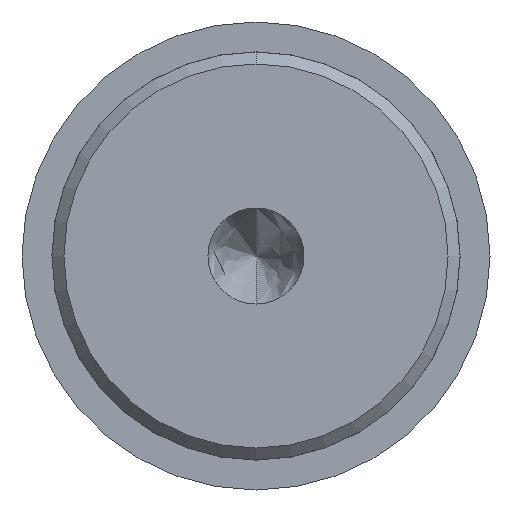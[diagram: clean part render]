
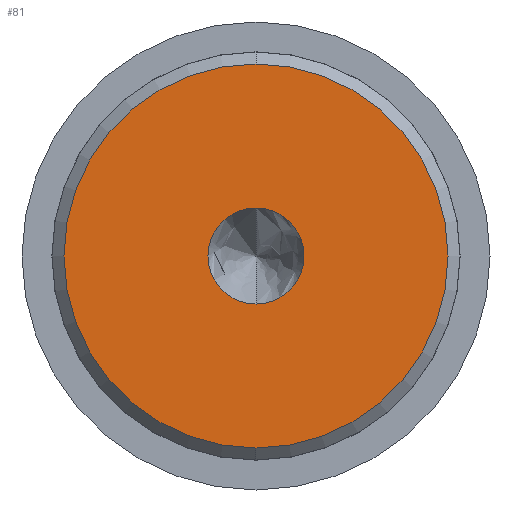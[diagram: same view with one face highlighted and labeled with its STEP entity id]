
A CAD part, left-side view. The second image highlights one B-rep face of the part: STEP entity #81.
In plain terms, the highlighted free-form (B-spline) face has degree [1, 1] with [2, 2] control points.
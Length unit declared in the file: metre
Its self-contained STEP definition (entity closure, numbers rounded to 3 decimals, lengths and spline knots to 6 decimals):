
#81 = ADVANCED_FACE( '', ( #116, #117 ), #118, .T. );
#116 = FACE_BOUND( '', #186, .T. );
#117 = FACE_OUTER_BOUND( '', #187, .T. );
#118 = B_SPLINE_SURFACE_WITH_KNOTS( '', 1, 1, ( ( #188, #189 ), ( #190, #191 ) ), .UNSPECIFIED., .F., .F., .F., ( 2, 2 ), ( 2, 2 ), ( 0., 1. ), ( 0., 1. ), .UNSPECIFIED. );
#186 = EDGE_LOOP( '', ( #345, #346 ) );
#187 = EDGE_LOOP( '', ( #347, #348 ) );
#188 = CARTESIAN_POINT( '', ( -0.064, -0.016192, -0.016192 ) );
#189 = CARTESIAN_POINT( '', ( -0.064, 0.016192, -0.016192 ) );
#190 = CARTESIAN_POINT( '', ( -0.064, -0.016192, 0.016192 ) );
#191 = CARTESIAN_POINT( '', ( -0.064, 0.016192, 0.016192 ) );
#345 = ORIENTED_EDGE( '', *, *, #522, .T. );
#346 = ORIENTED_EDGE( '', *, *, #520, .T. );
#347 = ORIENTED_EDGE( '', *, *, #523, .T. );
#348 = ORIENTED_EDGE( '', *, *, #524, .T. );
#520 = EDGE_CURVE( '', #582, #580, #583, .T. );
#522 = EDGE_CURVE( '', #580, #582, #585, .T. );
#523 = EDGE_CURVE( '', #586, #587, #588, .F. );
#524 = EDGE_CURVE( '', #587, #586, #589, .F. );
#580 = VERTEX_POINT( '', #673 );
#582 = VERTEX_POINT( '', #676 );
#583 = CIRCLE( '', #677, 0.004 );
#585 = CIRCLE( '', #680, 0.004 );
#586 = VERTEX_POINT( '', #681 );
#587 = VERTEX_POINT( '', #682 );
#588 = CIRCLE( '', #683, 0.016 );
#589 = CIRCLE( '', #684, 0.016 );
#673 = CARTESIAN_POINT( '', ( -0.064, 0., -0.004 ) );
#676 = CARTESIAN_POINT( '', ( -0.064, 0., 0.004 ) );
#677 = AXIS2_PLACEMENT_3D( '', #806, #807, #808 );
#680 = AXIS2_PLACEMENT_3D( '', #810, #811, #812 );
#681 = CARTESIAN_POINT( '', ( -0.064, 0., 0.016 ) );
#682 = CARTESIAN_POINT( '', ( -0.064, 0., -0.016 ) );
#683 = AXIS2_PLACEMENT_3D( '', #813, #814, #815 );
#684 = AXIS2_PLACEMENT_3D( '', #816, #817, #818 );
#806 = CARTESIAN_POINT( '', ( -0.064, 0., 0. ) );
#807 = DIRECTION( '', ( 1., 0., 0. ) );
#808 = DIRECTION( '', ( 0., 0., -1. ) );
#810 = CARTESIAN_POINT( '', ( -0.064, 0., 0. ) );
#811 = DIRECTION( '', ( 1., 0., 0. ) );
#812 = DIRECTION( '', ( 0., 0., -1. ) );
#813 = CARTESIAN_POINT( '', ( -0.064, 0., 0. ) );
#814 = DIRECTION( '', ( 1., 0., 0. ) );
#815 = DIRECTION( '', ( 0., 0., -1. ) );
#816 = CARTESIAN_POINT( '', ( -0.064, 0., 0. ) );
#817 = DIRECTION( '', ( 1., 0., 0. ) );
#818 = DIRECTION( '', ( 0., 0., -1. ) );
